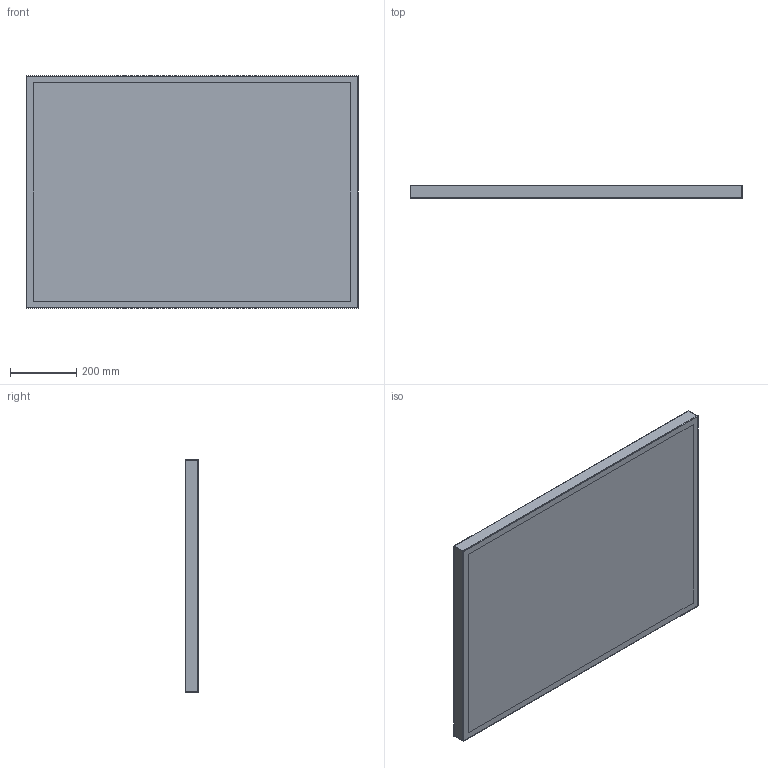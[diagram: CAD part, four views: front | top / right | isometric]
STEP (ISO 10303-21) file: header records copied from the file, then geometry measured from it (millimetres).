
FILE_DESCRIPTION(/* description */ ('Unknown'),/* implementation_level */ '2;1');
FILE_NAME(/* name */ 'Evo',/* time_stamp */ '2026-01-08T15:14:20+01:00',/* author */ ('Mariusz Kirko'),/* organization */ ('Kraft'),/* preprocessor_version */ 'ST-DEVELOPER v19.4',/* originating_system */ 'Solid Edge',/* authorisation */ 'Unknown');
FILE_SCHEMA (('AUTOMOTIVE_DESIGN {1 0 10303 214 3 1 1}'));
Length unit declared in the file: millimetre
Products named in the file (4): Z這瞠nie 100x70; Rama 100x70; Piaskowanie 100x70; Lustro 100x70
Assembly tree (3 placements, depth 2):
  Z這瞠nie 100x70
    Rama 100x70
    Piaskowanie 100x70
    Lustro 100x70
Bounding box: 1003 x 40 x 703 mm (x, y, z)
Volume: 3004360 mm3; surface area: 1722218 mm2
Topology: 3 solids, 3 shells, 26 faces, 60 edges, 40 vertices
Faces by surface type: plane 26
Entity records: 833 total; most frequent: CARTESIAN_POINT 130, ORIENTED_EDGE 120, DIRECTION 120, EDGE_CURVE 60, LINE 60, VECTOR 60, VERTEX_POINT 40, EDGE_LOOP 30
